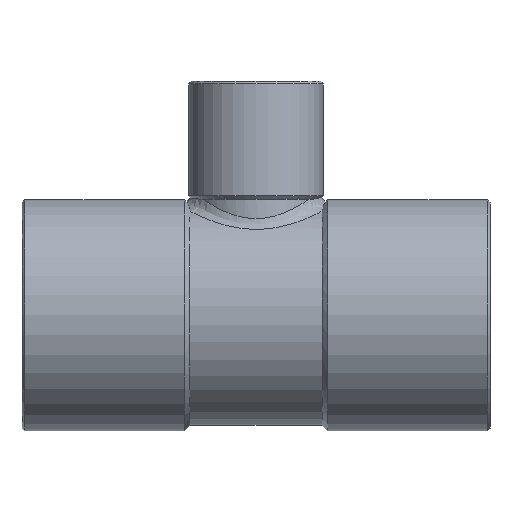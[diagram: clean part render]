
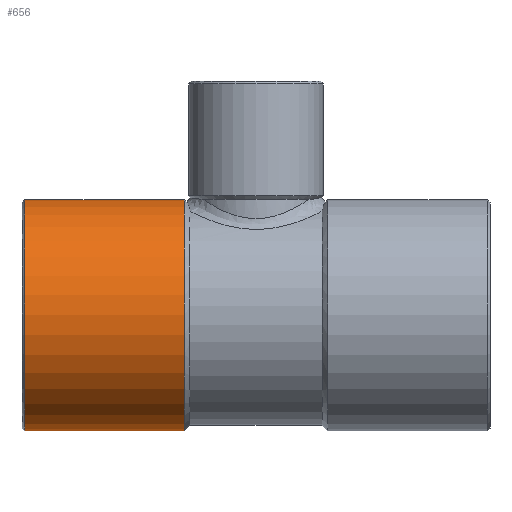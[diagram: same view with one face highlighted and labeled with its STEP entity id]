
A CAD part, top view. The second image highlights one B-rep face of the part: STEP entity #656.
In plain terms, the highlighted cylindrical face has radius 8.4 mm (diameter 16.8 mm), a partial arc.
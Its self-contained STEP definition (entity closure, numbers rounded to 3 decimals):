
#49=CARTESIAN_POINT('',(-5.2,8.4,0.0));
#50=VERTEX_POINT('',#49);
#59=CARTESIAN_POINT('',(-5.2,-8.4,0.));
#60=VERTEX_POINT('',#59);
#61=CARTESIAN_POINT('',(-5.2,0.0,0.0));
#62=DIRECTION('',(1.0,0.0,0.0));
#63=DIRECTION('',(0.0,1.0,0.0));
#64=AXIS2_PLACEMENT_3D('',#61,#62,#63);
#65=CIRCLE('',#64,8.4);
#66=EDGE_CURVE('',#50,#60,#65,.T.);
#625=CARTESIAN_POINT('',(-11.1,0.0,0.0));
#626=DIRECTION('',(1.0,0.0,0.0));
#627=DIRECTION('',(0.0,1.0,0.0));
#628=AXIS2_PLACEMENT_3D('',#625,#626,#627);
#629=CYLINDRICAL_SURFACE('',#628,8.4);
#630=CARTESIAN_POINT('',(-16.8,8.4,0.));
#631=VERTEX_POINT('',#630);
#632=CARTESIAN_POINT('',(-16.8,8.4,0.));
#633=DIRECTION('',(1.0,0.0,0.0));
#634=VECTOR('',#633,11.6);
#635=LINE('',#632,#634);
#636=EDGE_CURVE('',#631,#50,#635,.T.);
#637=ORIENTED_EDGE('',*,*,#636,.F.);
#638=CARTESIAN_POINT('',(-16.8,-8.4,0.));
#639=VERTEX_POINT('',#638);
#640=CARTESIAN_POINT('',(-16.8,0.0,0.0));
#641=DIRECTION('',(-1.0,0.0,0.0));
#642=DIRECTION('',(0.0,-1.0,0.0));
#643=AXIS2_PLACEMENT_3D('',#640,#641,#642);
#644=CIRCLE('',#643,8.4);
#645=EDGE_CURVE('',#639,#631,#644,.T.);
#646=ORIENTED_EDGE('',*,*,#645,.F.);
#647=CARTESIAN_POINT('',(-5.2,-8.4,0.));
#648=DIRECTION('',(-1.0,0.0,0.0));
#649=VECTOR('',#648,11.6);
#650=LINE('',#647,#649);
#651=EDGE_CURVE('',#60,#639,#650,.T.);
#652=ORIENTED_EDGE('',*,*,#651,.F.);
#653=ORIENTED_EDGE('',*,*,#66,.F.);
#654=EDGE_LOOP('',(#637,#646,#652,#653));
#655=FACE_OUTER_BOUND('',#654,.T.);
#656=ADVANCED_FACE('',(#655),#629,.T.);
